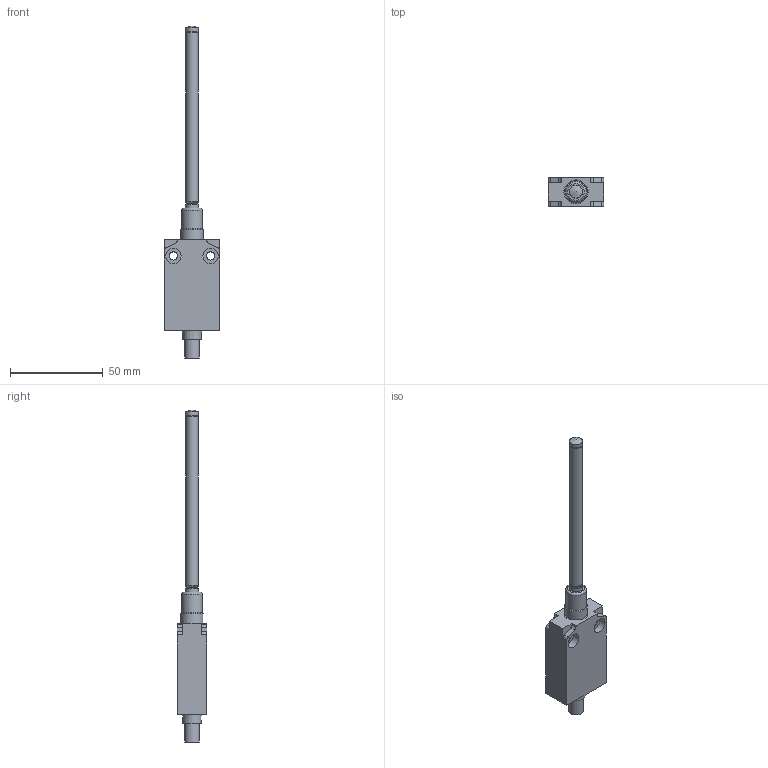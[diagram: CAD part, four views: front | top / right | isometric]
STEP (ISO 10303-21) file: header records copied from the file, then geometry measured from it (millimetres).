
FILE_DESCRIPTION(/* description */ (''),/* implementation_level */ '2;1');
FILE_NAME(/* name */ 'M49FF_bottom CABLE.stp',/* time_stamp */ '2024-11-20T10:07:33+01:00',/* author */ ('servizio.tecnico'),/* organization */ (''),/* preprocessor_version */ 'ST-DEVELOPER v19.2',/* originating_system */ 'Autodesk Inventor 2024',/* authorisation */ '');
FILE_SCHEMA (('AUTOMOTIVE_DESIGN { 1 0 10303 214 3 1 1 }'));
Length unit declared in the file: millimetre
Products named in the file (1): M49FF_bottom CABLE
Bounding box: 30 x 16 x 178.6 mm (x, y, z)
Volume: 28249.6 mm3; surface area: 9953.2 mm2
Topology: 4 solids, 4 shells, 85 faces, 197 edges, 129 vertices
Faces by surface type: plane 45, cylinder 29, cone 8, torus 3
Full cylindrical faces by diameter (mm): 4.4 x2, 5.9 x1, 6.8 x1, 7 x2, 8 x1, 8.2 x4, 11 x1, 12 x1
Entity records: 2539 total; most frequent: DIRECTION 439, CARTESIAN_POINT 427, ORIENTED_EDGE 392, EDGE_CURVE 196, AXIS2_PLACEMENT_3D 165, VERTEX_POINT 129, LINE 109, VECTOR 109
